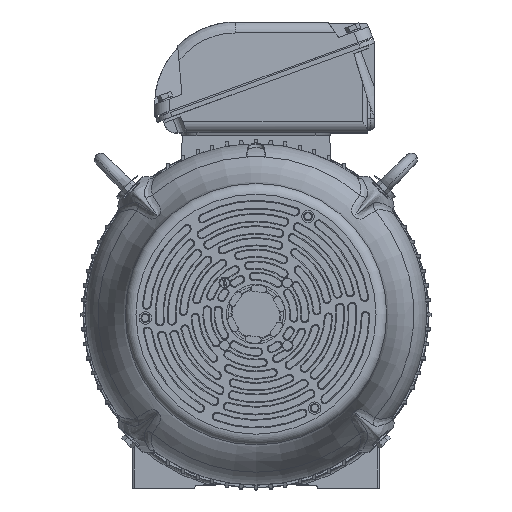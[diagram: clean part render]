
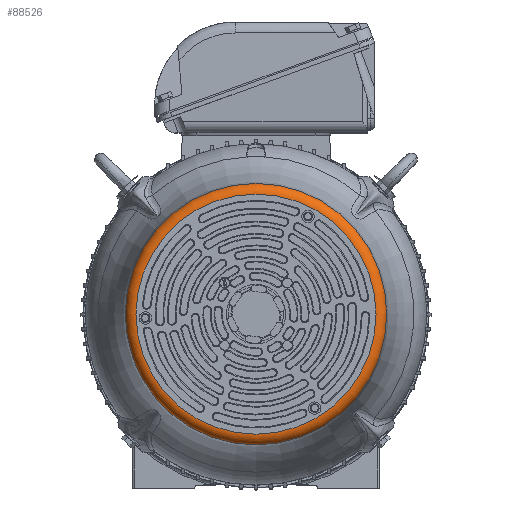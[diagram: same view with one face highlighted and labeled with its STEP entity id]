
A CAD part, top view. The second image highlights one B-rep face of the part: STEP entity #88526.
In plain terms, the highlighted toroidal (fillet/blend) face has major radius 156 mm and minor radius 14 mm.
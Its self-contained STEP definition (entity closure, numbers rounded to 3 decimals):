
#10404=TOROIDAL_SURFACE('',#95839,156.,14.);
#16488=FACE_OUTER_BOUND('',#21676,.T.);
#21676=EDGE_LOOP('',(#77147,#77148,#77149,#77150,#77151,#77152));
#36236=CIRCLE('',#95840,170.);
#36237=CIRCLE('',#95841,170.);
#36238=CIRCLE('',#95842,14.);
#36239=CIRCLE('',#95843,156.);
#36240=CIRCLE('',#95844,156.);
#43653=VERTEX_POINT('',#189622);
#43654=VERTEX_POINT('',#189623);
#43655=VERTEX_POINT('',#189626);
#43656=VERTEX_POINT('',#189628);
#55272=EDGE_CURVE('',#43653,#43654,#36236,.T.);
#55273=EDGE_CURVE('',#43654,#43653,#36237,.T.);
#55274=EDGE_CURVE('',#43654,#43655,#36238,.T.);
#55275=EDGE_CURVE('',#43655,#43656,#36239,.T.);
#55276=EDGE_CURVE('',#43656,#43655,#36240,.T.);
#77147=ORIENTED_EDGE('',*,*,#55272,.F.);
#77148=ORIENTED_EDGE('',*,*,#55273,.F.);
#77149=ORIENTED_EDGE('',*,*,#55274,.T.);
#77150=ORIENTED_EDGE('',*,*,#55275,.T.);
#77151=ORIENTED_EDGE('',*,*,#55276,.T.);
#77152=ORIENTED_EDGE('',*,*,#55274,.F.);
#88526=ADVANCED_FACE('',(#16488),#10404,.T.);
#95839=AXIS2_PLACEMENT_3D('',#189621,#113825,#113826);
#95840=AXIS2_PLACEMENT_3D('',#189624,#113827,#113828);
#95841=AXIS2_PLACEMENT_3D('',#189625,#113829,#113830);
#95842=AXIS2_PLACEMENT_3D('',#189627,#113831,#113832);
#95843=AXIS2_PLACEMENT_3D('',#189629,#113833,#113834);
#95844=AXIS2_PLACEMENT_3D('',#189630,#113835,#113836);
#113825=DIRECTION('center_axis',(0.,0.,
-1.));
#113826=DIRECTION('ref_axis',(0.,1.,0.));
#113827=DIRECTION('center_axis',(0.,0.,
-1.));
#113828=DIRECTION('ref_axis',(0.,1.,0.));
#113829=DIRECTION('center_axis',(0.,0.,
-1.));
#113830=DIRECTION('ref_axis',(0.,1.,0.));
#113831=DIRECTION('center_axis',(-1.,0.,0.));
#113832=DIRECTION('ref_axis',(0.,-1.,0.));
#113833=DIRECTION('center_axis',(0.,0.,
-1.));
#113834=DIRECTION('ref_axis',(0.,1.,0.));
#113835=DIRECTION('center_axis',(0.,0.,
-1.));
#113836=DIRECTION('ref_axis',(0.,1.,0.));
#189621=CARTESIAN_POINT('Origin',(0.,0.,
882.764));
#189622=CARTESIAN_POINT('',(0.,170.,882.764));
#189623=CARTESIAN_POINT('',(0.,-170.,882.764));
#189624=CARTESIAN_POINT('Origin',(0.,0.,
882.764));
#189625=CARTESIAN_POINT('Origin',(0.,0.,
882.764));
#189626=CARTESIAN_POINT('',(0.,-156.,896.764));
#189627=CARTESIAN_POINT('Origin',(0.,-156.,
882.764));
#189628=CARTESIAN_POINT('',(0.,156.,896.764));
#189629=CARTESIAN_POINT('Origin',(0.,0.,
896.764));
#189630=CARTESIAN_POINT('Origin',(0.,0.,
896.764));
